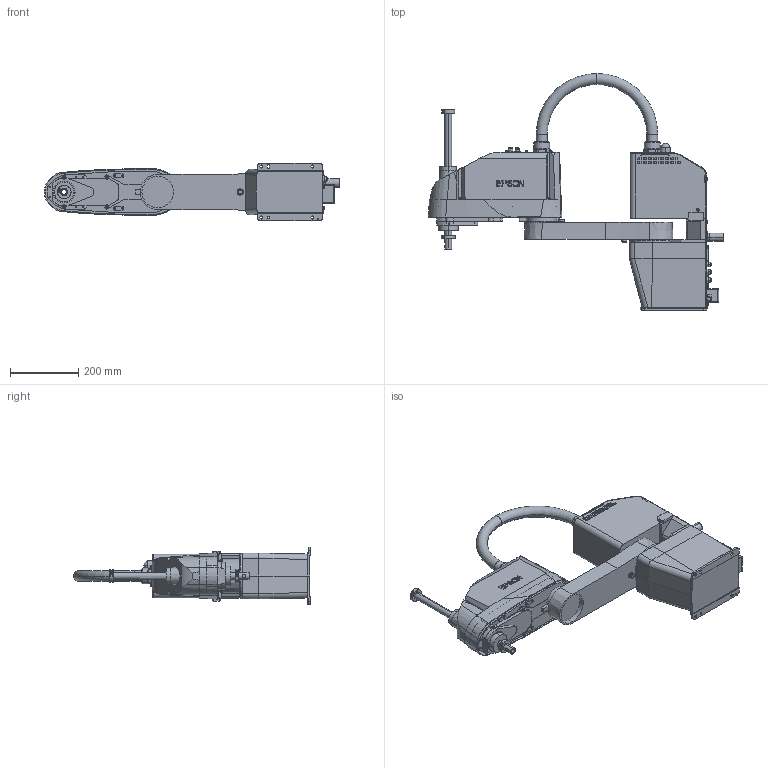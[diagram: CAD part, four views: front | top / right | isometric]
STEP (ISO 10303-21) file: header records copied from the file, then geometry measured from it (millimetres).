
FILE_DESCRIPTION((''),'2;1');
FILE_NAME('T6-B602S_ASM','2021-11-17T',('5004197'),(''),'CREO PARAMETRIC BY PTC INC, 2018360','CREO PARAMETRIC BY PTC INC, 2018360','');
FILE_SCHEMA(('AUTOMOTIVE_DESIGN { 1 0 10303 214 1 1 1 1 }'));
Products named in the file (7): _T6-B601S_BASE; _T6-B601S_CABLE; _T6-B601S_ARM1; _T6-B601S_ARM2; _T6-B601S_SHAFT; T6-B601S-W_ASM; T6-B602S_ASM
Assembly tree (6 placements, depth 3):
  T6-B602S_ASM
    T6-B601S-W_ASM
      _T6-B601S_BASE
      _T6-B601S_CABLE
      _T6-B601S_ARM1
      _T6-B601S_ARM2
      _T6-B601S_SHAFT
Bounding box: 868.5 x 696.6 x 169 mm (x, y, z)
Volume: 21484954.2 mm3; surface area: 1152779.7 mm2
Topology: 5 solids, 5 shells, 3027 faces, 7858 edges, 5169 vertices
Faces by surface type: plane 1960, cylinder 784, cone 104, torus 100, bspline 73, sphere 6
Entity records: 109477 total; most frequent: CARTESIAN_POINT 24096, ORIENTED_EDGE 15692, DIRECTION 15523, EDGE_CURVE 7846, VECTOR 5419, LINE 5419, VERTEX_POINT 5169, AXIS2_PLACEMENT_3D 5052
